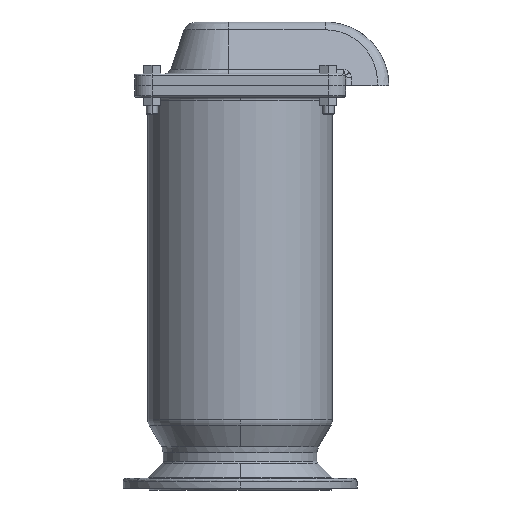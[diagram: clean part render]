
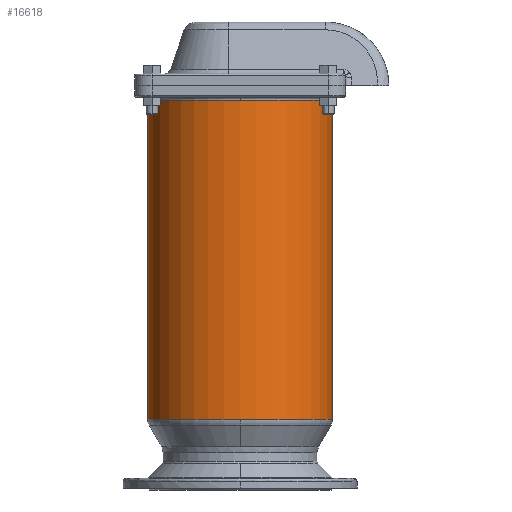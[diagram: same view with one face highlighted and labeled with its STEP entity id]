
A CAD part, left-side view. The second image highlights one B-rep face of the part: STEP entity #16618.
In plain terms, the highlighted cylindrical face has radius 160 mm (diameter 320 mm), a partial arc.
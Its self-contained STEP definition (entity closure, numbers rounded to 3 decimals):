
#193 = DIRECTION ( 'NONE',  ( 1., 0., 0. ) ) ;
#704 = VERTEX_POINT ( 'NONE', #6250 ) ;
#1340 = CARTESIAN_POINT ( 'NONE',  ( -160., 0., 675. ) ) ;
#1863 = DIRECTION ( 'NONE',  ( 0., 0., 1. ) ) ;
#2045 = EDGE_CURVE ( 'NONE', #704, #11608, #18377, .T. ) ;
#2230 = EDGE_CURVE ( 'NONE', #14454, #19796, #20696, .T. ) ;
#2782 = AXIS2_PLACEMENT_3D ( 'NONE', #15316, #5423, #16958 ) ;
#3161 = EDGE_CURVE ( 'NONE', #704, #6652, #19887, .T. ) ;
#3517 = CARTESIAN_POINT ( 'NONE',  ( 0., 0., 122.124 ) ) ;
#4220 = DIRECTION ( 'NONE',  ( 0., 0., -1. ) ) ;
#4913 = ORIENTED_EDGE ( 'NONE', *, *, #2230, .F. ) ;
#5196 = DIRECTION ( 'NONE',  ( 0., -1., 0. ) ) ;
#5423 = DIRECTION ( 'NONE',  ( 0., 0., 1. ) ) ;
#5941 = EDGE_CURVE ( 'NONE', #18022, #14454, #18023, .T. ) ;
#5963 = AXIS2_PLACEMENT_3D ( 'NONE', #14099, #4220, #15767 ) ;
#6080 = DIRECTION ( 'NONE',  ( 0., 0., 1. ) ) ;
#6250 = CARTESIAN_POINT ( 'NONE',  ( 0., -160., 122.124 ) ) ;
#6297 = AXIS2_PLACEMENT_3D ( 'NONE', #19969, #10079, #193 ) ;
#6652 = VERTEX_POINT ( 'NONE', #13853 ) ;
#7494 = FACE_OUTER_BOUND ( 'NONE', #16569, .T. ) ;
#7526 = DIRECTION ( 'NONE',  ( 0., 0., 1. ) ) ;
#8814 = ORIENTED_EDGE ( 'NONE', *, *, #12954, .F. ) ;
#8923 = ORIENTED_EDGE ( 'NONE', *, *, #10361, .F. ) ;
#9391 = CARTESIAN_POINT ( 'NONE',  ( 0., -160., 675. ) ) ;
#9522 = CARTESIAN_POINT ( 'NONE',  ( 0., 160., 675. ) ) ;
#9560 = AXIS2_PLACEMENT_3D ( 'NONE', #3517, #1863, #5196 ) ;
#9735 = VECTOR ( 'NONE', #7526, 1000. ) ;
#9984 = CIRCLE ( 'NONE', #5963, 160. ) ;
#10079 = DIRECTION ( 'NONE',  ( 0., 0., -1. ) ) ;
#10086 = VECTOR ( 'NONE', #17070, 1000. ) ;
#10361 = EDGE_CURVE ( 'NONE', #6652, #18022, #9984, .T. ) ;
#11608 = VERTEX_POINT ( 'NONE', #9391 ) ;
#12655 = AXIS2_PLACEMENT_3D ( 'NONE', #15954, #6080, #17638 ) ;
#12954 = EDGE_CURVE ( 'NONE', #19796, #11608, #19299, .T. ) ;
#13853 = CARTESIAN_POINT ( 'NONE',  ( -160., 0., 122.124 ) ) ;
#14099 = CARTESIAN_POINT ( 'NONE',  ( 0., 0., 122.124 ) ) ;
#14454 = VERTEX_POINT ( 'NONE', #9522 ) ;
#15316 = CARTESIAN_POINT ( 'NONE',  ( 0., 0., 675. ) ) ;
#15561 = CARTESIAN_POINT ( 'NONE',  ( 0., 160., 122.124 ) ) ;
#15766 = CYLINDRICAL_SURFACE ( 'NONE', #9560, 160. ) ;
#15767 = DIRECTION ( 'NONE',  ( 1., 0., 0. ) ) ;
#15954 = CARTESIAN_POINT ( 'NONE',  ( 0., 0., 675. ) ) ;
#16569 = EDGE_LOOP ( 'NONE', ( #20906, #8923, #18313, #21017, #8814, #4913 ) ) ;
#16618 = ADVANCED_FACE ( 'NONE', ( #7494 ), #15766, .T. ) ;
#16958 = DIRECTION ( 'NONE',  ( 1., 0., 0. ) ) ;
#17070 = DIRECTION ( 'NONE',  ( 0., 0., 1. ) ) ;
#17421 = CARTESIAN_POINT ( 'NONE',  ( 0., 160., 122.124 ) ) ;
#17638 = DIRECTION ( 'NONE',  ( 1., 0., 0. ) ) ;
#18022 = VERTEX_POINT ( 'NONE', #15561 ) ;
#18023 = LINE ( 'NONE', #17421, #9735 ) ;
#18313 = ORIENTED_EDGE ( 'NONE', *, *, #3161, .F. ) ;
#18377 = LINE ( 'NONE', #20388, #10086 ) ;
#19299 = CIRCLE ( 'NONE', #2782, 160. ) ;
#19796 = VERTEX_POINT ( 'NONE', #1340 ) ;
#19887 = CIRCLE ( 'NONE', #6297, 160. ) ;
#19969 = CARTESIAN_POINT ( 'NONE',  ( 0., 0., 122.124 ) ) ;
#20388 = CARTESIAN_POINT ( 'NONE',  ( 0., -160., 122.124 ) ) ;
#20696 = CIRCLE ( 'NONE', #12655, 160. ) ;
#20906 = ORIENTED_EDGE ( 'NONE', *, *, #5941, .F. ) ;
#21017 = ORIENTED_EDGE ( 'NONE', *, *, #2045, .T. ) ;
